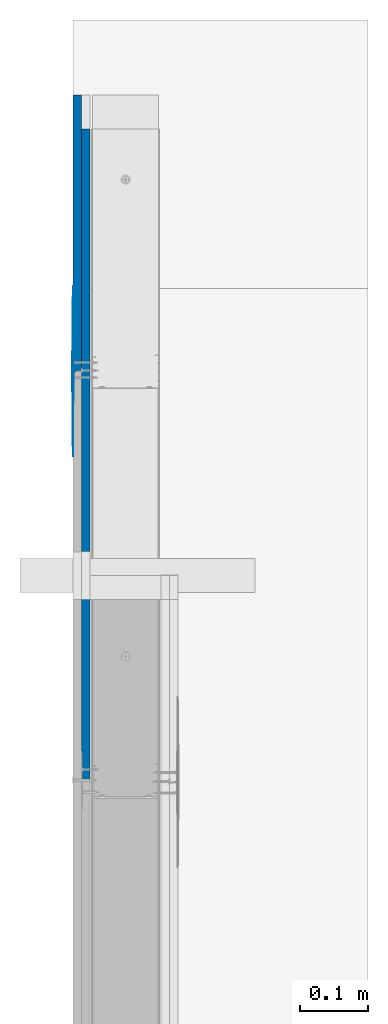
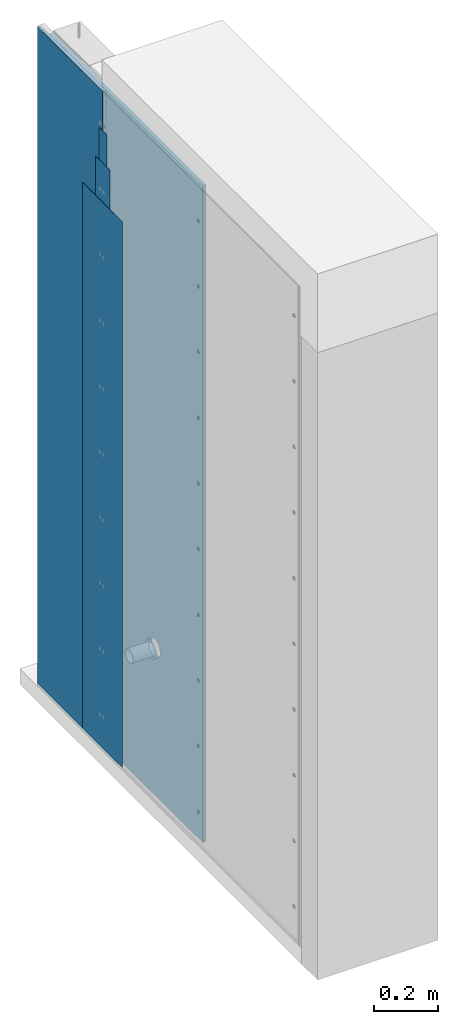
# One storey, part 6 of 92: 5 walls.
"""IFC2X3 building model written with IfcOpenShell, lengths in millimetres."""

from ifc_helpers import new_model, si_unit, frame, origin_with_axes, place, context, subcontext, project, spatial, faceted_brep, material, type_object, element, save


model = new_model("IFC2X3")

# Units and contexts
model_context = context("Model", 3, world=origin_with_axes())
body_context = subcontext(model_context, "Body", "Model", "MODEL_VIEW")
ifc_project = project(units=[si_unit("LENGTHUNIT", "METRE", prefix="MILLI"), si_unit("AREAUNIT", "SQUARE_METRE"), si_unit("VOLUMEUNIT", "CUBIC_METRE")], contexts=[model_context])

# Site, building, storey
site_placement = place(None, origin_with_axes())
site = spatial("IfcSite", under=ifc_project, at=site_placement, Name="Default Site", CompositionType="ELEMENT")
building_placement = place(site_placement, origin_with_axes())
building = spatial("IfcBuilding", under=site, at=building_placement, Name="Default Building", CompositionType="ELEMENT")
storey_placement = place(building_placement, origin_with_axes())
storey = spatial("IfcBuildingStorey", under=building, at=storey_placement, Name="Default Building Storey", CompositionType="ELEMENT", Elevation=0.0)

# Walls
ifc_material_1 = material(Name="Default")
wall_type_1 = type_object("IfcWallType", Name="Masa szpachlowa wykończeniowa RIGIPS#2", PredefinedType="NOTDEFINED")
wall_1_placement = place(storey_placement, frame((3390.556767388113, 2077.6747080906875, 67.55398719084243), z_axis=(0.0, 0.0, 1.0), x_axis=(4.0245584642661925e-16, 1.0, 0.0)))
element("IfcWall", 1, at=wall_1_placement, inside=storey, type_object=wall_type_1, material=ifc_material_1, Name="Masa szpachlowa wykończeniowa RIGIPS", context=body_context, shape_type="Brep", body=[
    faceted_brep([(-612.4592423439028, 3390.5568122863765, 2.4499970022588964), (-862.4592423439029, 3390.556812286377, 2.4499970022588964), (-812.4612569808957, 3391.1967277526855, 2.4499970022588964), (-762.4602317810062, 3391.516685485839, 2.4499970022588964), (-712.458193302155, 3391.516685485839, 2.4499970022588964), (-662.4571681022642, 3391.1967277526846, 2.4499970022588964), (-762.4602317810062, 3391.516685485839, 2081.7999956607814), (-812.4612569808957, 3391.1967277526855, 2081.7999956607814), (-862.4592423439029, 3390.556812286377, 2081.7999956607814), (-612.4592423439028, 3390.5568122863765, 2081.7999956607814), (-662.4571681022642, 3391.1967277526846, 2081.7999956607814), (-712.458193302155, 3391.516685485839, 2081.7999956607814)], [[[0, 1, 2, 3, 4, 5]], [[6, 7, 8, 9, 10, 11]], [[9, 0, 5, 10]], [[10, 5, 4, 11]], [[11, 4, 3, 6]], [[6, 3, 2, 7]], [[1, 8, 7, 2]], [[0, 9, 8, 1]]]),
])
wall_type_2 = type_object("IfcWallType", Name="Taśma spoinowa RIGIPS#2", PredefinedType="NOTDEFINED")
wall_2_placement = place(storey_placement, frame((3390.55672248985, 2077.6747080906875, 67.55398719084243), z_axis=(0.0, 0.0, 1.0), x_axis=(4.0245584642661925e-16, 1.0, 0.0)))
element("IfcWall", 2, at=wall_2_placement, inside=storey, type_object=wall_type_2, material=ifc_material_1, Name="Taśma spoinowa RIGIPS", context=body_context, shape_type="Brep", body=[
    faceted_brep([(-712.4592065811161, 3389.3566131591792, 2351.8000016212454), (-712.4592065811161, 3389.8568153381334, 2351.8000016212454), (-762.4592185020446, 3389.8568153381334, 2351.8000016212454), (-762.4592185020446, 3389.3566131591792, 2351.8000016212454), (-712.4592065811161, 3389.8568153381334, 2.4499970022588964), (-712.4592065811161, 3389.3566131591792, 2.4499970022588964), (-762.4592185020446, 3389.3566131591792, 2.4499970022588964), (-762.4592185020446, 3389.8568153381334, 2.4499970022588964)], [[[0, 1, 2, 3]], [[4, 5, 6, 7]], [[5, 0, 3, 6]], [[6, 3, 2, 7]], [[7, 2, 1, 4]], [[4, 1, 0, 5]]]),
])
ifc_material_2 = material(Name="Undefined6")
wall_type_3 = type_object("IfcWallType", Name="Płyta gipsowo-kartonowa RIGIPS PRO (4PRO™)#7", PredefinedType="NOTDEFINED")
wall_3_placement = place(storey_placement, frame((12.500000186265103, 1341.2154987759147, 1120.0056054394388), z_axis=(0.0, 0.0, 1.0), x_axis=(4.0245584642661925e-16, 1.0, 0.0)))
element("IfcWall", 3, at=wall_3_placement, inside=storey, type_object=wall_type_3, material=ifc_material_2, Name="Płyta gipsowo-kartonowa RIGIPS PRO (4PRO™)", context=body_context, shape_type="Brep", body=[
    faceted_brep([(404.9165815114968, 12.50000018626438, 1450.0000014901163), (404.9165815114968, -1.3824603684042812e-10, 1450.0000014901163), (404.9165815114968, -1.3535839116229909e-10, -1050.001621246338), (404.9165815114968, 12.50000018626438, -1050.001621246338), (7.219114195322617e-13, -2.165734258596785e-12, 1450.0000014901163), (45.00000178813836, 12.50000018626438, 1450.0000014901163), (41.00000113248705, 11.500000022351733, 1450.0000014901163), (1.0000000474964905, 11.500000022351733, 1450.0000014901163), (0.741180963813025, 11.465925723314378, 1450.0000014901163), (0.5000000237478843, 11.36602554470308, 1450.0000014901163), (0.2928932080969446, 11.207106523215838, 1450.0000014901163), (0.13397459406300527, 10.999999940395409, 1450.0000014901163), (0.03407417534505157, 10.758819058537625, 1450.0000014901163), (-2.887645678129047e-12, 10.499999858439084, 1450.0000014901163), (45.00000178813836, 12.50000018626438, -1050.001621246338), (41.00000113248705, 11.500000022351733, -1050.001621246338), (1.0000000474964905, 11.500000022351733, -1050.001621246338), (0.741180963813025, 11.465925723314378, -1050.001621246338), (0.5000000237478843, 11.36602554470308, -1050.001621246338), (0.2928932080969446, 11.207106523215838, -1050.001621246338), (0.13397459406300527, 10.999999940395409, -1050.001621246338), (0.03407417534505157, 10.758819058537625, -1050.001621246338), (-4.33146851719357e-12, 10.499999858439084, -1050.001621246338), (-7.219114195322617e-13, 3.6095570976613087e-13, -1050.001621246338)], [[[0, 1, 2, 3]], [[4, 1, 0, 5, 6, 7, 8, 9, 10, 11, 12, 13]], [[0, 3, 14, 5]], [[6, 5, 14, 15]], [[7, 6, 15, 16]], [[8, 7, 16, 17]], [[9, 8, 17, 18]], [[10, 9, 18, 19]], [[11, 10, 19, 20]], [[12, 11, 20, 21]], [[13, 12, 21, 22]], [[4, 13, 22, 23]], [[23, 2, 1, 4]], [[14, 3, 2, 23, 22, 21, 20, 19, 18, 17, 16, 15]]]),
])
wall_type_4 = type_object("IfcWallType", Name="Masa szpachlowa konstrukcyjna RIGIPS#6", PredefinedType="NOTDEFINED")
wall_4_placement = place(storey_placement, frame((3390.556812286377, 2077.6747390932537, 67.55398719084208), z_axis=(0.0, 0.0, 1.0), x_axis=(4.0245584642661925e-16, 1.0, 0.0)))
element("IfcWall", 4, at=wall_4_placement, inside=storey, type_object=wall_type_4, material=ifc_material_1, Name="Masa szpachlowa konstrukcyjna RIGIPS", context=body_context, shape_type="Brep", body=[
    faceted_brep([(-737.4838590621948, 3387.669563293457, 2229.799977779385), (-737.4592423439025, 3387.356758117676, 2229.799977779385), (-737.4345660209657, 3387.669563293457, 2229.799977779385), (-737.3613119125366, 3387.974739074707, 2229.799977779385), (-737.241208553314, 3388.2646560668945, 2229.799977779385), (-737.0772361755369, 3388.532400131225, 2229.799977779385), (-736.87344789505, 3388.770818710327, 2229.799977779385), (-736.6347908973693, 3388.9746665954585, 2229.799977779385), (-736.3672256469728, 3389.138698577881, 2229.799977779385), (-736.07724905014, 3389.258861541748, 2229.799977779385), (-735.7720732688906, 3389.3320560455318, 2229.799977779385), (-735.4592084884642, 3389.3566131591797, 2229.799977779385), (-692.4592256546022, 3389.3566131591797, 2229.799977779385), (-691.4592385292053, 3390.556812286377, 2229.799977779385), (-782.4591994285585, 3390.556812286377, 2229.799977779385), (-782.4591994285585, 3389.3566131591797, 2229.799977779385), (-739.4592165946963, 3389.3566131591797, 2229.799977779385), (-739.1463518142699, 3389.3320560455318, 2229.799977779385), (-738.8411760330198, 3389.258861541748, 2229.799977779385), (-738.5512590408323, 3389.138698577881, 2229.799977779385), (-738.2836341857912, 3388.9746665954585, 2229.799977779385), (-738.0449771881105, 3388.770818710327, 2229.799977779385), (-737.8411889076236, 3388.532400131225, 2229.799977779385), (-737.6772165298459, 3388.2646560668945, 2229.799977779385), (-737.557113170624, 3387.974739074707, 2229.799977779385), (-691.4592385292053, 3390.556812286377, 2.4499970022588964), (-692.4592256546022, 3389.3566131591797, 2.4499970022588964), (-735.4592084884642, 3389.3566131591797, 2.4499970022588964), (-735.7720732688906, 3389.3320560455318, 2.4499970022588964), (-736.07724905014, 3389.258861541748, 2.4499970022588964), (-736.3672256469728, 3389.138698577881, 2.4499970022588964), (-736.6347908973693, 3388.9746665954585, 2.4499970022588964), (-736.87344789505, 3388.770818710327, 2.4499970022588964), (-737.0772361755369, 3388.532400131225, 2.4499970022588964), (-737.241208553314, 3388.2646560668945, 2.4499970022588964), (-737.3613119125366, 3387.974739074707, 2.4499970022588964), (-737.4345660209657, 3387.669563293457, 2.4499970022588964), (-737.4592423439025, 3387.356758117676, 2.4499970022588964), (-737.4838590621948, 3387.669563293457, 2.4499970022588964), (-737.557113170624, 3387.974739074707, 2.4499970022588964), (-737.6772165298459, 3388.2646560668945, 2.4499970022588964), (-737.8411889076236, 3388.532400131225, 2.4499970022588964), (-738.0449771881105, 3388.770818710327, 2.4499970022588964), (-738.2836341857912, 3388.9746665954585, 2.4499970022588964), (-738.5512590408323, 3389.138698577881, 2.4499970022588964), (-738.8411760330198, 3389.258861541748, 2.4499970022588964), (-739.1463518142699, 3389.3320560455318, 2.4499970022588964), (-739.4592165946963, 3389.3566131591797, 2.4499970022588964), (-782.4591994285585, 3389.3566131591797, 2.4499970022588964), (-782.4591994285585, 3390.556812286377, 2.4499970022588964)], [[[0, 1, 2, 3, 4, 5, 6, 7, 8, 9, 10, 11, 12, 13, 14, 15, 16, 17, 18, 19, 20, 21, 22, 23, 24]], [[25, 26, 27, 28, 29, 30, 31, 32, 33, 34, 35, 36, 37, 38, 39, 40, 41, 42, 43, 44, 45, 46, 47, 48, 49]], [[26, 12, 11, 27]], [[10, 9, 29, 28]], [[28, 27, 11, 10]], [[8, 30, 29, 9]], [[7, 6, 32, 31]], [[31, 30, 8, 7]], [[5, 4, 34, 33]], [[33, 32, 6, 5]], [[3, 35, 34, 4]], [[2, 1, 37, 36]], [[36, 35, 3, 2]], [[0, 24, 39, 38]], [[38, 37, 1, 0]], [[23, 40, 39, 24]], [[22, 21, 42, 41]], [[41, 40, 23, 22]], [[20, 19, 44, 43]], [[43, 42, 21, 20]], [[18, 45, 44, 19]], [[17, 16, 47, 46]], [[46, 45, 18, 17]], [[47, 16, 15, 48]], [[48, 15, 14, 49]], [[49, 14, 13, 25]], [[25, 13, 12, 26]]]),
])
wall_type_5 = type_object("IfcWallType", Name="Płyta gipsowo-kartonowa RIGIPS PRO (4PRO™)#1", PredefinedType="NOTDEFINED")
wall_5_placement = place(storey_placement, frame((24.996170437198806, 739.0157198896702, 1120.1685509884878), z_axis=(0.0, 0.0, 1.0), x_axis=(4.0245584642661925e-16, 1.0, 0.0)))
element("IfcWall", 5, at=wall_5_placement, inside=storey, type_object=wall_type_5, material=ifc_material_2, Name="Płyta gipsowo-kartonowa RIGIPS PRO (4PRO™)", context=body_context, shape_type="Brep", body=[
    faceted_brep([(957.1163771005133, 12.500000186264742, 1450.000001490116), (957.1163771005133, -1.37885081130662e-10, 1450.000001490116), (957.1163771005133, -1.3499743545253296e-10, -1050.001621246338), (957.1163771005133, 12.500000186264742, -1050.001621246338), (7.219114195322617e-13, -2.165734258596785e-12, 1450.000001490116), (45.00000178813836, 12.50000018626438, 1450.000001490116), (41.00000113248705, 11.500000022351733, 1450.000001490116), (1.0000000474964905, 11.500000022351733, 1450.000001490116), (0.741180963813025, 11.465925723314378, 1450.000001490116), (0.5000000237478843, 11.36602554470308, 1450.000001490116), (0.2928932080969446, 11.207106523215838, 1450.000001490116), (0.13397459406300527, 10.999999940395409, 1450.000001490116), (0.03407417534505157, 10.758819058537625, 1450.000001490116), (-2.887645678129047e-12, 10.499999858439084, 1450.000001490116), (45.00000178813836, 12.50000018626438, -1050.001621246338), (-7.219114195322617e-13, 3.6095570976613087e-13, -1050.001621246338), (-4.33146851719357e-12, 10.499999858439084, -1050.001621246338), (0.03407417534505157, 10.758819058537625, -1050.001621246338), (0.13397459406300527, 10.999999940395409, -1050.001621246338), (0.2928932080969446, 11.207106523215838, -1050.001621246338), (0.5000000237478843, 11.36602554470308, -1050.001621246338), (0.741180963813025, 11.465925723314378, -1050.001621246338), (1.0000000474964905, 11.500000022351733, -1050.001621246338), (41.00000113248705, 11.500000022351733, -1050.001621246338), (303.23454951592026, -7.88688225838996e-11, -525.0372314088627), (301.03688133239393, -7.904930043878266e-11, -525.1062959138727), (298.83921314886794, -7.904930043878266e-11, -525.0372314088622), (296.65021815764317, -7.904930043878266e-11, -524.8303104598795), (294.4785353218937, -7.904930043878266e-11, -524.4863496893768), (292.332735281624, -7.904930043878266e-11, -524.0067065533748), (290.22128652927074, -7.904930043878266e-11, -523.3932739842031), (288.1525219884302, -7.904930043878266e-11, -522.6484729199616), (286.13460612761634, -7.904930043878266e-11, -521.7752427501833), (284.17550273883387, -7.904930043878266e-11, -520.7770297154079), (282.28294350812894, -7.904930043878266e-11, -519.6577733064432), (280.4643975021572, -7.904930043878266e-11, -518.4218907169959), (278.7270416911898, -7.904930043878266e-11, -517.0742594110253), (277.0777326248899, -7.904930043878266e-11, -515.6201978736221), (275.52297937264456, -7.904930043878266e-11, -514.0654446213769), (274.0689178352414, -7.895906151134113e-11, -512.4161355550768), (272.72128652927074, -7.895906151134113e-11, -510.6787797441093), (271.48540393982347, -7.895906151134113e-11, -508.8602337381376), (270.36614753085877, -7.895906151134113e-11, -506.9676745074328), (269.3679344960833, -7.904930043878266e-11, -505.00857111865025), (268.4947043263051, -7.904930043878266e-11, -502.9906552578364), (267.74990326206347, -7.904930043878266e-11, -500.9218907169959), (267.1364706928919, -7.904930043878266e-11, -498.8104419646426), (266.6568275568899, -7.904930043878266e-11, -496.6646419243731), (266.31286678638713, -7.904930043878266e-11, -494.49295908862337), (266.1059458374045, -7.904930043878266e-11, -492.3039640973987), (266.03688133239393, -7.904930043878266e-11, -490.1062959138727), (266.1059458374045, -7.904930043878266e-11, -487.9086277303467), (266.31286678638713, -7.904930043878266e-11, -485.71963273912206), (266.6568275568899, -7.904930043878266e-11, -483.54794990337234), (267.1364706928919, -7.904930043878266e-11, -481.4021498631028), (267.74990326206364, -7.904930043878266e-11, -479.2907011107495), (268.4947043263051, -7.904930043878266e-11, -477.22193656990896), (269.3679344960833, -7.904930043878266e-11, -475.2040207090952), (270.36614753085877, -7.895906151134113e-11, -473.24491732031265), (271.48540393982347, -7.895906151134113e-11, -471.35235808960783), (272.72128652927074, -7.895906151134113e-11, -469.5338120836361), (274.0689178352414, -7.895906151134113e-11, -467.79645627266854), (275.52297937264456, -7.904930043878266e-11, -466.1471472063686), (277.0777326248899, -7.904930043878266e-11, -464.5923939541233), (278.7270416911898, -7.904930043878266e-11, -463.13833241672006), (280.4643975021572, -7.904930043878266e-11, -461.7907011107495), (282.28294350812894, -7.904930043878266e-11, -460.5548185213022), (284.17550273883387, -7.904930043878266e-11, -459.4355621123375), (286.13460612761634, -7.904930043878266e-11, -458.437349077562), (288.1525219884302, -7.904930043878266e-11, -457.5641189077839), (290.22128652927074, -7.904930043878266e-11, -456.81931784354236), (292.332735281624, -7.904930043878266e-11, -456.20588527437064), (294.4785353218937, -7.904930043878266e-11, -455.72624213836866), (296.65021815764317, -7.904930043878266e-11, -455.382281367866), (298.83921314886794, -7.904930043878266e-11, -455.17536041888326), (301.03688133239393, -7.904930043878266e-11, -455.1062959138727), (303.2345495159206, -7.868834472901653e-11, -455.17536041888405), (305.42354450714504, -7.868834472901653e-11, -455.38228136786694), (307.5952273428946, -7.868834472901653e-11, -455.7262421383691), (309.74102738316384, -7.868834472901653e-11, -456.20588527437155), (311.85247613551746, -7.868834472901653e-11, -456.81931784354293), (313.921240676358, -7.868834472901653e-11, -457.5641189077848), (315.9391565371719, -7.868834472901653e-11, -458.4373490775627), (317.89825992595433, -7.868834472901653e-11, -459.4355621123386), (319.79081915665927, -7.868834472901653e-11, -460.554818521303), (321.609365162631, -7.868834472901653e-11, -461.7907011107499), (323.34672097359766, -7.868834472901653e-11, -463.1383324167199), (324.99603003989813, -7.868834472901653e-11, -464.59239395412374), (326.5507832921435, -7.868834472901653e-11, -466.1471472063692), (328.0048448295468, -7.868834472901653e-11, -467.79645627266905), (329.35247613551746, -7.868834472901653e-11, -469.5338120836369), (330.58835872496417, -7.868834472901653e-11, -471.35235808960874), (331.7076151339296, -7.868834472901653e-11, -473.2449173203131), (332.7058281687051, -7.868834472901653e-11, -475.2040207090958), (333.5790583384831, -7.868834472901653e-11, -477.2219365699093), (334.3238594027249, -7.868834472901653e-11, -479.29070111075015), (334.9372919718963, -7.868834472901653e-11, -481.4021498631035), (335.41693510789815, -7.868834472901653e-11, -483.54794990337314), (335.7608958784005, -7.868834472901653e-11, -485.71963273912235), (335.9678168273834, -7.868834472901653e-11, -487.9086277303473), (336.0368813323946, -7.877858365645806e-11, -490.1062959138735), (335.9678168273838, -7.877858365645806e-11, -492.30396409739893), (335.76089587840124, -7.877858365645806e-11, -494.4929590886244), (335.41693510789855, -7.877858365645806e-11, -496.66464192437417), (334.9372919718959, -7.877858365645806e-11, -498.81044196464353), (334.32385940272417, -7.877858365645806e-11, -500.9218907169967), (333.5790583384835, -7.877858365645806e-11, -502.9906552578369), (332.7058281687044, -7.877858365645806e-11, -505.0085711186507), (331.7076151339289, -7.877858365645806e-11, -506.9676745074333), (330.58835872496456, -7.877858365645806e-11, -508.8602337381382), (329.35247613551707, -7.877858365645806e-11, -510.6787797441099), (328.0048448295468, -7.877858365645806e-11, -512.4161355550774), (326.5507832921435, -7.88688225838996e-11, -514.065444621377), (324.9960300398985, -7.88688225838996e-11, -515.6201978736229), (323.34672097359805, -7.88688225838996e-11, -517.0742594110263), (321.60936516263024, -7.88688225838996e-11, -518.4218907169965), (319.79081915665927, -7.88688225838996e-11, -519.6577733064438), (317.89825992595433, -7.88688225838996e-11, -520.777029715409), (315.9391565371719, -7.88688225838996e-11, -521.7752427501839), (313.9212406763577, -7.88688225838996e-11, -522.6484729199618), (311.85247613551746, -7.88688225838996e-11, -523.3932739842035), (309.7410273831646, -7.88688225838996e-11, -524.0067065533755), (307.59522734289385, -7.88688225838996e-11, -524.486349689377), (305.42354450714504, -7.88688225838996e-11, -524.8303104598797), (301.03688133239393, 12.488536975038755, -525.1062959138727), (303.23454951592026, 12.488536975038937, -525.0372314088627), (305.42354450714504, 12.488536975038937, -524.8303104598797), (307.59522734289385, 12.488536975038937, -524.486349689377), (309.7410273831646, 12.488536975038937, -524.0067065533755), (311.85247613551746, 12.488536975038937, -523.3932739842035), (313.9212406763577, 12.488536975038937, -522.6484729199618), (315.9391565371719, 12.488536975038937, -521.7752427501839), (317.89825992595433, 12.488536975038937, -520.777029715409), (319.79081915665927, 12.488536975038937, -519.6577733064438), (321.60936516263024, 12.488536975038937, -518.4218907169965), (323.34672097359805, 12.488536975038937, -517.0742594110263), (324.9960300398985, 12.488536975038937, -515.6201978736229), (326.5507832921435, 12.488536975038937, -514.065444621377), (328.0048448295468, 12.488536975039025, -512.4161355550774), (329.35247613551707, 12.488536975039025, -510.6787797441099), (330.58835872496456, 12.488536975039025, -508.8602337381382), (331.7076151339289, 12.488536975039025, -506.9676745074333), (332.7058281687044, 12.488536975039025, -505.0085711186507), (333.5790583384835, 12.488536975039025, -502.9906552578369), (334.32385940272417, 12.488536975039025, -500.9218907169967), (334.9372919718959, 12.488536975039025, -498.81044196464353), (335.41693510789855, 12.488536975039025, -496.66464192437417), (335.76089587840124, 12.488536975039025, -494.4929590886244), (335.9678168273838, 12.488536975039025, -492.30396409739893), (336.0368813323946, 12.488536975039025, -490.1062959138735), (335.9678168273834, 12.488536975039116, -487.9086277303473), (335.7608958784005, 12.488536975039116, -485.71963273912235), (335.41693510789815, 12.488536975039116, -483.54794990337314), (334.9372919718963, 12.488536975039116, -481.4021498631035), (334.3238594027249, 12.488536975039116, -479.29070111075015), (333.5790583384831, 12.488536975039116, -477.2219365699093), (332.7058281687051, 12.488536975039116, -475.2040207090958), (331.7076151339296, 12.488536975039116, -473.2449173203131), (330.58835872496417, 12.488536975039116, -471.35235808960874), (329.35247613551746, 12.488536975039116, -469.5338120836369), (328.0048448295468, 12.488536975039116, -467.79645627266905), (326.5507832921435, 12.488536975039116, -466.1471472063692), (324.99603003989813, 12.488536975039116, -464.59239395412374), (323.34672097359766, 12.488536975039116, -463.1383324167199), (321.609365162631, 12.488536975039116, -461.7907011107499), (319.79081915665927, 12.488536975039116, -460.554818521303), (317.89825992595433, 12.488536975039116, -459.4355621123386), (315.9391565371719, 12.488536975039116, -458.4373490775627), (313.921240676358, 12.488536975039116, -457.5641189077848), (311.85247613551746, 12.488536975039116, -456.81931784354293), (309.74102738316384, 12.488536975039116, -456.20588527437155), (307.5952273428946, 12.488536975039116, -455.7262421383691), (305.42354450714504, 12.488536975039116, -455.38228136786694), (303.2345495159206, 12.488536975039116, -455.17536041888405), (301.03688133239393, 12.488536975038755, -455.1062959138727), (298.83921314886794, 12.488536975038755, -455.17536041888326), (296.65021815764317, 12.488536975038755, -455.382281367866), (294.4785353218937, 12.488536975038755, -455.72624213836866), (292.332735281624, 12.488536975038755, -456.20588527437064), (290.22128652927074, 12.488536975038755, -456.81931784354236), (288.1525219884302, 12.488536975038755, -457.5641189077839), (286.13460612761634, 12.488536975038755, -458.437349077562), (284.17550273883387, 12.488536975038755, -459.4355621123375), (282.28294350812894, 12.488536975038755, -460.5548185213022), (280.4643975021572, 12.488536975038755, -461.7907011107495), (278.7270416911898, 12.488536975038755, -463.13833241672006), (277.0777326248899, 12.488536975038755, -464.5923939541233), (275.52297937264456, 12.488536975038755, -466.1471472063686), (274.0689178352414, 12.488536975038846, -467.79645627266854), (272.72128652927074, 12.488536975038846, -469.5338120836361), (271.48540393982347, 12.488536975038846, -471.35235808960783), (270.36614753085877, 12.488536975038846, -473.24491732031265), (269.3679344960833, 12.488536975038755, -475.2040207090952), (268.4947043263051, 12.488536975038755, -477.22193656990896), (267.74990326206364, 12.488536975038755, -479.2907011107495), (267.1364706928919, 12.488536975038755, -481.4021498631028), (266.6568275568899, 12.488536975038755, -483.54794990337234), (266.31286678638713, 12.488536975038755, -485.71963273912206), (266.1059458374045, 12.488536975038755, -487.9086277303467), (266.03688133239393, 12.488536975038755, -490.1062959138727), (266.1059458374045, 12.488536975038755, -492.3039640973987), (266.31286678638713, 12.488536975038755, -494.49295908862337), (266.6568275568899, 12.488536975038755, -496.6646419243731), (267.1364706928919, 12.488536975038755, -498.8104419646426), (267.74990326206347, 12.488536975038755, -500.9218907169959), (268.4947043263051, 12.488536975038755, -502.9906552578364), (269.3679344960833, 12.488536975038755, -505.00857111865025), (270.36614753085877, 12.488536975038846, -506.9676745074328), (271.48540393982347, 12.488536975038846, -508.8602337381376), (272.72128652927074, 12.488536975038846, -510.6787797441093), (274.0689178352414, 12.488536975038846, -512.4161355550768), (275.52297937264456, 12.488536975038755, -514.0654446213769), (277.0777326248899, 12.488536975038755, -515.6201978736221), (278.7270416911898, 12.488536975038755, -517.0742594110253), (280.4643975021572, 12.488536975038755, -518.4218907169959), (282.28294350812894, 12.488536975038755, -519.6577733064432), (284.17550273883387, 12.488536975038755, -520.7770297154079), (286.13460612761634, 12.488536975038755, -521.7752427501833), (288.1525219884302, 12.488536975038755, -522.6484729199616), (290.22128652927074, 12.488536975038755, -523.3932739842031), (292.332735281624, 12.488536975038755, -524.0067065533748), (294.4785353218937, 12.488536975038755, -524.4863496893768), (296.65021815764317, 12.488536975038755, -524.8303104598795), (298.83921314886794, 12.488536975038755, -525.0372314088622)], [[[0, 1, 2, 3]], [[4, 1, 0, 5, 6, 7, 8, 9, 10, 11, 12, 13]], [[14, 3, 2, 15, 16, 17, 18, 19, 20, 21, 22, 23]], [[15, 2, 1, 4], [24, 25, 26, 27, 28, 29, 30, 31, 32, 33, 34, 35, 36, 37, 38, 39, 40, 41, 42, 43, 44, 45, 46, 47, 48, 49, 50, 51, 52, 53, 54, 55, 56, 57, 58, 59, 60, 61, 62, 63, 64, 65, 66, 67, 68, 69, 70, 71, 72, 73, 74, 75, 76, 77, 78, 79, 80, 81, 82, 83, 84, 85, 86, 87, 88, 89, 90, 91, 92, 93, 94, 95, 96, 97, 98, 99, 100, 101, 102, 103, 104, 105, 106, 107, 108, 109, 110, 111, 112, 113, 114, 115, 116, 117, 118, 119, 120, 121, 122, 123]], [[10, 9, 20, 19]], [[11, 10, 19, 18]], [[12, 11, 18, 17]], [[13, 12, 17, 16]], [[7, 6, 23, 22]], [[8, 7, 22, 21]], [[6, 5, 14, 23]], [[0, 3, 14, 5], [124, 125, 126, 127, 128, 129, 130, 131, 132, 133, 134, 135, 136, 137, 138, 139, 140, 141, 142, 143, 144, 145, 146, 147, 148, 149, 150, 151, 152, 153, 154, 155, 156, 157, 158, 159, 160, 161, 162, 163, 164, 165, 166, 167, 168, 169, 170, 171, 172, 173, 174, 175, 176, 177, 178, 179, 180, 181, 182, 183, 184, 185, 186, 187, 188, 189, 190, 191, 192, 193, 194, 195, 196, 197, 198, 199, 200, 201, 202, 203, 204, 205, 206, 207, 208, 209, 210, 211, 212, 213, 214, 215, 216, 217, 218, 219, 220, 221, 222, 223]], [[9, 8, 21, 20]], [[4, 13, 16, 15]], [[124, 125, 24, 25]], [[223, 124, 25, 26]], [[222, 223, 26, 27]], [[221, 222, 27, 28]], [[220, 221, 28, 29]], [[219, 220, 29, 30]], [[218, 219, 30, 31]], [[217, 218, 31, 32]], [[216, 217, 32, 33]], [[215, 216, 33, 34]], [[214, 215, 34, 35]], [[213, 214, 35, 36]], [[212, 213, 36, 37]], [[211, 212, 37, 38]], [[210, 211, 38, 39]], [[209, 210, 39, 40]], [[208, 209, 40, 41]], [[207, 208, 41, 42]], [[206, 207, 42, 43]], [[205, 206, 43, 44]], [[204, 205, 44, 45]], [[203, 204, 45, 46]], [[202, 203, 46, 47]], [[201, 202, 47, 48]], [[200, 201, 48, 49]], [[199, 200, 49, 50]], [[198, 199, 50, 51]], [[197, 198, 51, 52]], [[196, 197, 52, 53]], [[195, 196, 53, 54]], [[194, 195, 54, 55]], [[193, 194, 55, 56]], [[192, 193, 56, 57]], [[191, 192, 57, 58]], [[190, 191, 58, 59]], [[189, 190, 59, 60]], [[188, 189, 60, 61]], [[187, 188, 61, 62]], [[186, 187, 62, 63]], [[185, 186, 63, 64]], [[184, 185, 64, 65]], [[183, 184, 65, 66]], [[182, 183, 66, 67]], [[181, 182, 67, 68]], [[180, 181, 68, 69]], [[179, 180, 69, 70]], [[178, 179, 70, 71]], [[177, 178, 71, 72]], [[176, 177, 72, 73]], [[175, 176, 73, 74]], [[174, 175, 74, 75]], [[173, 174, 75, 76]], [[172, 173, 76, 77]], [[171, 172, 77, 78]], [[170, 171, 78, 79]], [[169, 170, 79, 80]], [[168, 169, 80, 81]], [[167, 168, 81, 82]], [[166, 167, 82, 83]], [[165, 166, 83, 84]], [[164, 165, 84, 85]], [[163, 164, 85, 86]], [[162, 163, 86, 87]], [[161, 162, 87, 88]], [[160, 161, 88, 89]], [[159, 160, 89, 90]], [[158, 159, 90, 91]], [[157, 158, 91, 92]], [[156, 157, 92, 93]], [[155, 156, 93, 94]], [[154, 155, 94, 95]], [[153, 154, 95, 96]], [[152, 153, 96, 97]], [[151, 152, 97, 98]], [[150, 151, 98, 99]], [[149, 150, 99, 100]], [[148, 149, 100, 101]], [[147, 148, 101, 102]], [[146, 147, 102, 103]], [[145, 146, 103, 104]], [[144, 145, 104, 105]], [[143, 144, 105, 106]], [[142, 143, 106, 107]], [[141, 142, 107, 108]], [[140, 141, 108, 109]], [[139, 140, 109, 110]], [[138, 139, 110, 111]], [[137, 138, 111, 112]], [[136, 137, 112, 113]], [[135, 136, 113, 114]], [[134, 135, 114, 115]], [[133, 134, 115, 116]], [[132, 133, 116, 117]], [[131, 132, 117, 118]], [[130, 131, 118, 119]], [[129, 130, 119, 120]], [[128, 129, 120, 121]], [[127, 128, 121, 122]], [[126, 127, 122, 123]], [[125, 126, 123, 24]]]),
])

save(model, "model.ifc")
